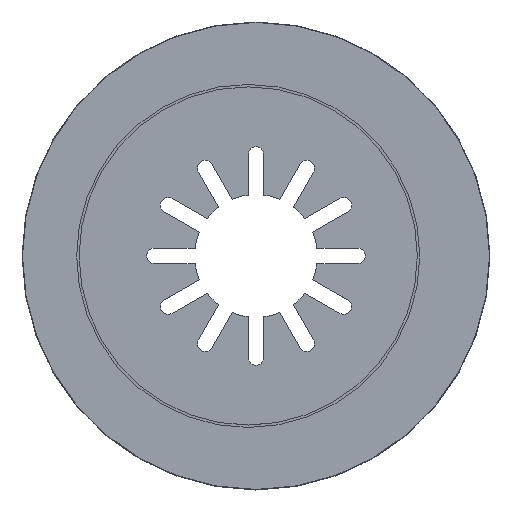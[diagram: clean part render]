
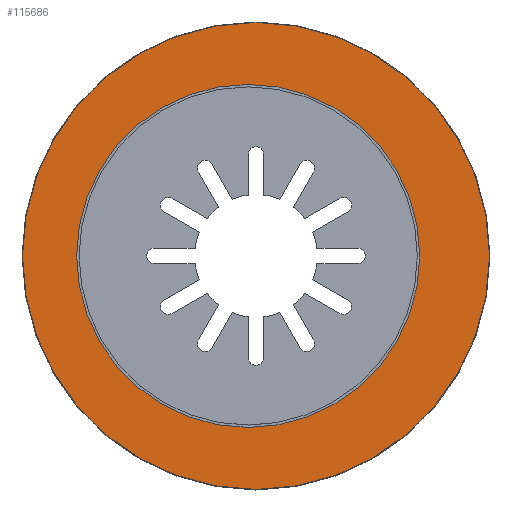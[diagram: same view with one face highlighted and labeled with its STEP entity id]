
A CAD part, top view. The second image highlights one B-rep face of the part: STEP entity #115686.
In plain terms, the highlighted planar face has unit normal (0, 0, 1).
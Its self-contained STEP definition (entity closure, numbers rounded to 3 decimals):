
#1504 = CARTESIAN_POINT ( 'NONE',  ( 14.97, 0., 2. ) ) ;
#5246 = DIRECTION ( 'NONE',  ( 1., 0., 0. ) ) ;
#6531 = DIRECTION ( 'NONE',  ( -1., 0., 0. ) ) ;
#7012 = CIRCLE ( 'NONE', #56913, 14.97 ) ;
#7819 = DIRECTION ( 'NONE',  ( 0., 0., 1. ) ) ;
#11568 = EDGE_LOOP ( 'NONE', ( #37813, #100499 ) ) ;
#14254 = CARTESIAN_POINT ( 'NONE',  ( -11.5, 0., 2. ) ) ;
#17277 = CARTESIAN_POINT ( 'NONE',  ( -15.188, 0., 2. ) ) ;
#20700 = CARTESIAN_POINT ( 'NONE',  ( 10.5, 0., 2. ) ) ;
#27888 = CIRCLE ( 'NONE', #64405, 11. ) ;
#35263 = FACE_OUTER_BOUND ( 'NONE', #91795, .T. ) ;
#35709 = CARTESIAN_POINT ( 'NONE',  ( 0., 0., 2. ) ) ;
#37813 = ORIENTED_EDGE ( 'NONE', *, *, #95322, .F. ) ;
#40507 = ORIENTED_EDGE ( 'NONE', *, *, #72794, .T. ) ;
#44011 = CIRCLE ( 'NONE', #99544, 11. ) ;
#44232 = VERTEX_POINT ( 'NONE', #14254 ) ;
#44420 = DIRECTION ( 'NONE',  ( -1., 0., 0. ) ) ;
#46570 = CIRCLE ( 'NONE', #77233, 14.97 ) ;
#48337 = CARTESIAN_POINT ( 'NONE',  ( -14.97, 0., 2. ) ) ;
#52054 = DIRECTION ( 'NONE',  ( 0., 0., 1. ) ) ;
#56913 = AXIS2_PLACEMENT_3D ( 'NONE', #90071, #7819, #44420 ) ;
#62036 = EDGE_CURVE ( 'NONE', #88171, #97889, #7012, .T. ) ;
#62354 = DIRECTION ( 'NONE',  ( 0., 0., -1. ) ) ;
#64405 = AXIS2_PLACEMENT_3D ( 'NONE', #118621, #65177, #64601 ) ;
#64601 = DIRECTION ( 'NONE',  ( 1., 0., 0. ) ) ;
#65177 = DIRECTION ( 'NONE',  ( 0., 0., 1. ) ) ;
#71984 = FACE_BOUND ( 'NONE', #11568, .T. ) ;
#72425 = DIRECTION ( 'NONE',  ( 0., 0., 1. ) ) ;
#72794 = EDGE_CURVE ( 'NONE', #97889, #88171, #46570, .T. ) ;
#77233 = AXIS2_PLACEMENT_3D ( 'NONE', #35709, #72425, #82586 ) ;
#79305 = VERTEX_POINT ( 'NONE', #20700 ) ;
#81627 = ORIENTED_EDGE ( 'NONE', *, *, #62036, .T. ) ;
#82586 = DIRECTION ( 'NONE',  ( -1., 0., 0. ) ) ;
#88171 = VERTEX_POINT ( 'NONE', #48337 ) ;
#89376 = PLANE ( 'NONE',  #110913 ) ;
#90071 = CARTESIAN_POINT ( 'NONE',  ( 0., 0., 2. ) ) ;
#91795 = EDGE_LOOP ( 'NONE', ( #81627, #40507 ) ) ;
#95322 = EDGE_CURVE ( 'NONE', #79305, #44232, #27888, .T. ) ;
#97889 = VERTEX_POINT ( 'NONE', #1504 ) ;
#99544 = AXIS2_PLACEMENT_3D ( 'NONE', #115702, #52054, #5246 ) ;
#100499 = ORIENTED_EDGE ( 'NONE', *, *, #102550, .F. ) ;
#102550 = EDGE_CURVE ( 'NONE', #44232, #79305, #44011, .T. ) ;
#110913 = AXIS2_PLACEMENT_3D ( 'NONE', #17277, #62354, #6531 ) ;
#115686 = ADVANCED_FACE ( 'NONE', ( #35263, #71984 ), #89376, .F. ) ;
#115702 = CARTESIAN_POINT ( 'NONE',  ( -0.5, 0., 2. ) ) ;
#118621 = CARTESIAN_POINT ( 'NONE',  ( -0.5, 0., 2. ) ) ;
